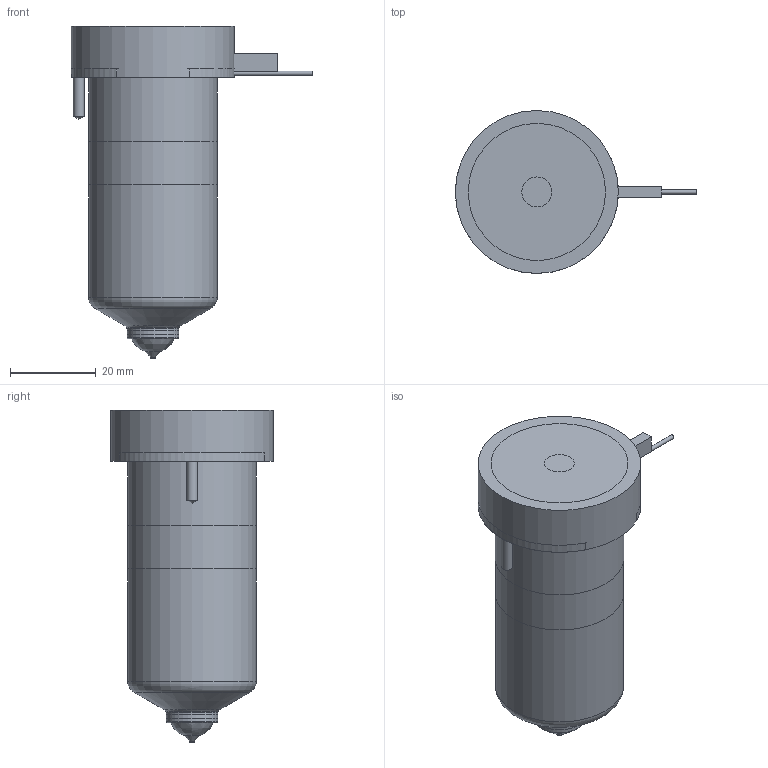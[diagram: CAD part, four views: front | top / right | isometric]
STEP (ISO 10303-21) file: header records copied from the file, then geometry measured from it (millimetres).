
FILE_DESCRIPTION(/* description */ (''),/* implementation_level */ '2;1');
FILE_NAME(/* name */ 'BXTT-BXIT16065_250C_b',/* time_stamp */ '2007-01-18T09:59:20+13:00',/* author */ (''),/* organization */ (''),/* preprocessor_version */ 'ST-DEVELOPER v9',/* originating_system */ 'UGS - NX 4.0',/* authorisation */ '');
FILE_SCHEMA (('CONFIG_CONTROL_DESIGN'));
Length unit declared in the file: millimetre
Products named in the file (1): BXTT-BXIT16065_250C_b
Bounding box: 56.25 x 38 x 77.41 mm (x, y, z)
Volume: 100739.7 mm3; surface area: 20596.1 mm2
Topology: 6 solids, 6 shells, 79 faces, 158 edges, 101 vertices
Faces by surface type: plane 35, cylinder 23, cone 11, torus 8, bspline 2
Full cylindrical faces by diameter (mm): 1 x4, 2.5 x2, 7 x1, 11.61 x1, 12.01 x2, 14.8 x1, 25.4 x1, 30 x2, 38 x1
Entity records: 1975 total; most frequent: CARTESIAN_POINT 410, DIRECTION 328, ORIENTED_EDGE 230, AXIS2_PLACEMENT_3D 145, EDGE_LOOP 122, EDGE_CURVE 115, VERTEX_POINT 92, ADVANCED_FACE 79
